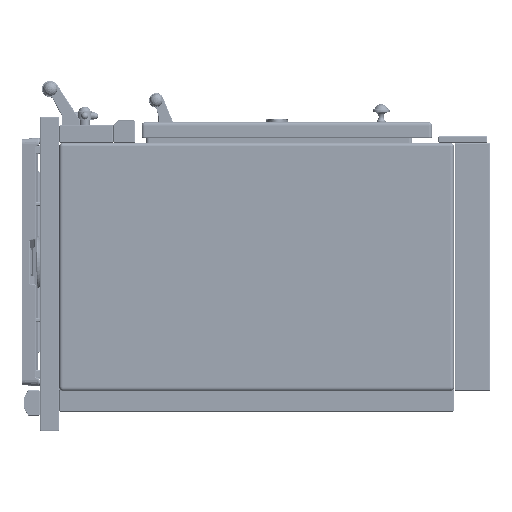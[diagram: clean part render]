
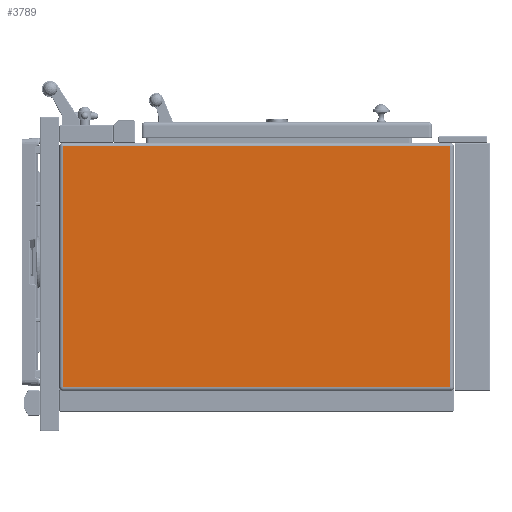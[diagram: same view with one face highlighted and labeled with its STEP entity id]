
A CAD part, left-side view. The second image highlights one B-rep face of the part: STEP entity #3789.
In plain terms, the highlighted planar face has unit normal (-1, 0, 0).
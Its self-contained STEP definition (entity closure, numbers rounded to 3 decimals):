
#347=DIRECTION('',(0.,1.,0.));
#348=VECTOR('',#347,801.);
#349=CARTESIAN_POINT('',(-750.,82.,249.));
#350=LINE('',#349,#348);
#351=DIRECTION('',(0.,0.,1.));
#352=VECTOR('',#351,498.);
#353=CARTESIAN_POINT('',(-750.,82.,-249.));
#354=LINE('',#353,#352);
#355=DIRECTION('',(0.,-1.,0.));
#356=VECTOR('',#355,801.);
#357=CARTESIAN_POINT('',(-750.,883.,-249.));
#358=LINE('',#357,#356);
#359=DIRECTION('',(0.,0.,-1.));
#360=VECTOR('',#359,498.);
#361=CARTESIAN_POINT('',(-750.,883.,249.));
#362=LINE('',#361,#360);
#2587=CARTESIAN_POINT('',(-750.,82.,249.));
#2588=CARTESIAN_POINT('',(-750.,883.,249.));
#2589=VERTEX_POINT('',#2587);
#2590=VERTEX_POINT('',#2588);
#2591=CARTESIAN_POINT('',(-750.,82.,-249.));
#2592=VERTEX_POINT('',#2591);
#2609=CARTESIAN_POINT('',(-750.,883.,-249.));
#2610=VERTEX_POINT('',#2609);
#3777=CARTESIAN_POINT('',(-750.,0.,0.));
#3778=DIRECTION('',(1.,0.,0.));
#3779=DIRECTION('',(0.,0.,-1.));
#3780=AXIS2_PLACEMENT_3D('',#3777,#3778,#3779);
#3781=PLANE('',#3780);
#3782=ORIENTED_EDGE('',*,*,#3722,.F.);
#3783=ORIENTED_EDGE('',*,*,#3760,.F.);
#3785=ORIENTED_EDGE('',*,*,#3784,.F.);
#3786=ORIENTED_EDGE('',*,*,#3668,.F.);
#3787=EDGE_LOOP('',(#3782,#3783,#3785,#3786));
#3788=FACE_OUTER_BOUND('',#3787,.F.);
#3668=EDGE_CURVE('',#2590,#2610,#362,.T.);
#3722=EDGE_CURVE('',#2589,#2590,#350,.T.);
#3760=EDGE_CURVE('',#2592,#2589,#354,.T.);
#3784=EDGE_CURVE('',#2610,#2592,#358,.T.);
#3789=ADVANCED_FACE('',(#3788),#3781,.F.);
